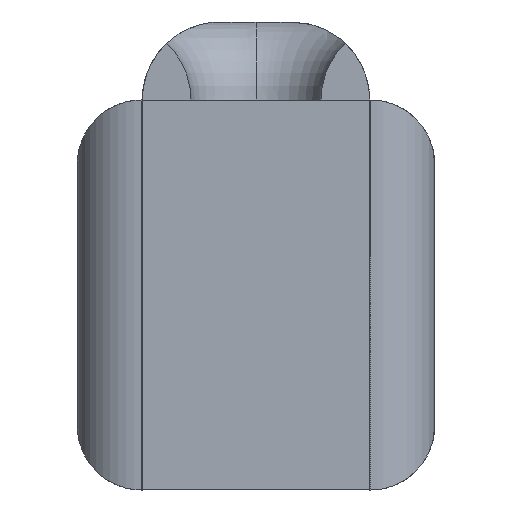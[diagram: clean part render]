
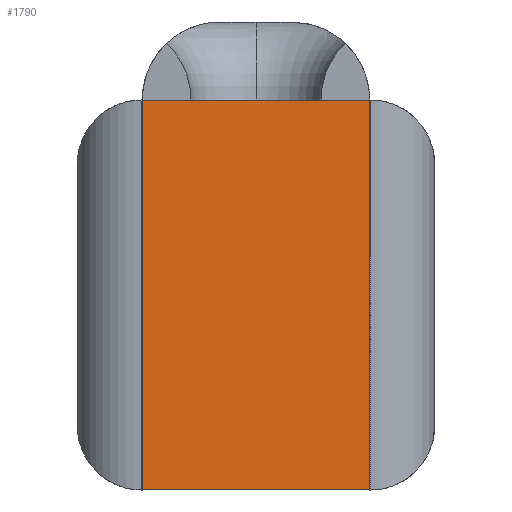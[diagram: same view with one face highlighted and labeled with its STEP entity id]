
A CAD part, left-side view. The second image highlights one B-rep face of the part: STEP entity #1790.
In plain terms, the highlighted planar face has unit normal (-1, 0, 0).
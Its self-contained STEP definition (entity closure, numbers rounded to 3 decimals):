
#18 = FACE_OUTER_BOUND ( 'NONE', #1691, .T. ) ;
#80 = LINE ( 'NONE', #184, #623 ) ;
#128 = CARTESIAN_POINT ( 'NONE',  ( -10., -1.75, 3. ) ) ;
#132 = CARTESIAN_POINT ( 'NONE',  ( -10., 1.75, 3. ) ) ;
#140 = VECTOR ( 'NONE', #724, 1000. ) ;
#184 = CARTESIAN_POINT ( 'NONE',  ( -10., 1.75, 3. ) ) ;
#209 = VERTEX_POINT ( 'NONE', #1770 ) ;
#220 = CARTESIAN_POINT ( 'NONE',  ( -10., -1.75, -3. ) ) ;
#227 = VERTEX_POINT ( 'NONE', #589 ) ;
#232 = LINE ( 'NONE', #1119, #1116 ) ;
#243 = DIRECTION ( 'NONE',  ( 0., -1., 0. ) ) ;
#297 = VERTEX_POINT ( 'NONE', #1748 ) ;
#329 = AXIS2_PLACEMENT_3D ( 'NONE', #1369, #594, #446 ) ;
#379 = EDGE_CURVE ( 'NONE', #297, #711, #557, .T. ) ;
#446 = DIRECTION ( 'NONE',  ( 0., 0., -1. ) ) ;
#557 = LINE ( 'NONE', #128, #657 ) ;
#589 = CARTESIAN_POINT ( 'NONE',  ( -10., 1.75, -3. ) ) ;
#594 = DIRECTION ( 'NONE',  ( 1., 0., 0. ) ) ;
#623 = VECTOR ( 'NONE', #1351, 1000. ) ;
#657 = VECTOR ( 'NONE', #975, 1000. ) ;
#711 = VERTEX_POINT ( 'NONE', #220 ) ;
#724 = DIRECTION ( 'NONE',  ( 0., -1., 0. ) ) ;
#755 = EDGE_CURVE ( 'NONE', #227, #711, #232, .T. ) ;
#790 = PLANE ( 'NONE',  #329 ) ;
#861 = ORIENTED_EDGE ( 'NONE', *, *, #755, .T. ) ;
#901 = ORIENTED_EDGE ( 'NONE', *, *, #1018, .T. ) ;
#975 = DIRECTION ( 'NONE',  ( 0., 0., -1. ) ) ;
#1018 = EDGE_CURVE ( 'NONE', #209, #227, #80, .T. ) ;
#1116 = VECTOR ( 'NONE', #243, 1000. ) ;
#1119 = CARTESIAN_POINT ( 'NONE',  ( -10., 1.75, -3. ) ) ;
#1227 = ORIENTED_EDGE ( 'NONE', *, *, #1246, .F. ) ;
#1246 = EDGE_CURVE ( 'NONE', #209, #297, #1446, .T. ) ;
#1351 = DIRECTION ( 'NONE',  ( 0., 0., -1. ) ) ;
#1369 = CARTESIAN_POINT ( 'NONE',  ( -10., 1.75, 3. ) ) ;
#1446 = LINE ( 'NONE', #132, #140 ) ;
#1558 = ORIENTED_EDGE ( 'NONE', *, *, #379, .F. ) ;
#1691 = EDGE_LOOP ( 'NONE', ( #861, #1558, #1227, #901 ) ) ;
#1748 = CARTESIAN_POINT ( 'NONE',  ( -10., -1.75, 3. ) ) ;
#1770 = CARTESIAN_POINT ( 'NONE',  ( -10., 1.75, 3. ) ) ;
#1790 = ADVANCED_FACE ( 'NONE', ( #18 ), #790, .F. ) ;
